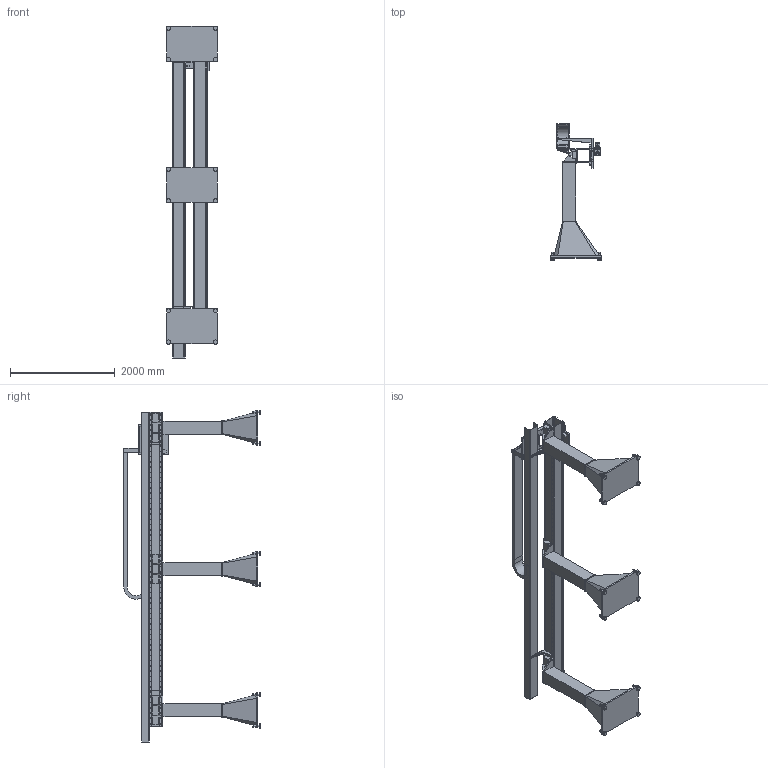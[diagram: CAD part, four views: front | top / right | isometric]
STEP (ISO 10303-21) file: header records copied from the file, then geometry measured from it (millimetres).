
FILE_DESCRIPTION (( 'STEP AP203' ), '1' );
FILE_NAME ('EP-4_V4_10-00000622-001.STEP', '2019-10-23T07:19:35', ( '' ), ( '' ), 'SwSTEP 2.0', 'SolidWorks 2017', '' );
FILE_SCHEMA (( 'CONFIG_CONTROL_DESIGN' ));
Length unit declared in the file: millimetre
Products named in the file (13): 10-00000622-014_.; 10-00000622-010_.; 10-00000622-013_.__mid; 10-00000622-006_.; 10-00000622-005_.; 10-00000622-004_.; EP-4_V4_10-00000622-001; 10-00000622-012_-; 10-00000622-002_.; 10-00000622-008_.; 10-00000622-016_.; 10-00000622-015_.; 10-00000622-011_.
Assembly tree (16 placements, depth 4):
  EP-4_V4_10-00000622-001
    10-00000622-011_.
    10-00000622-010_.  x2
    10-00000622-006_.  x2
    10-00000622-016_.
      10-00000622-002_.
        10-00000622-004_.
        10-00000622-012_-
      10-00000622-008_.
    10-00000622-013_.__mid  x3
      10-00000622-015_.
      10-00000622-014_.
    10-00000622-005_.
Bounding box: 980 x 2606.02 x 6345 mm (x, y, z)
Volume: 154468671.6 mm3; surface area: 40213837 mm2
Topology: 13 solids, 36 shells, 2413 faces, 6205 edges, 3971 vertices
Faces by surface type: plane 1260, cylinder 985, cone 164, torus 4
Entity records: 55456 total; most frequent: CARTESIAN_POINT 11086, DIRECTION 9019, ORIENTED_EDGE 8756, EDGE_CURVE 4388, AXIS2_PLACEMENT_3D 3274, VERTEX_POINT 2817, VECTOR 2471, LINE 2471
